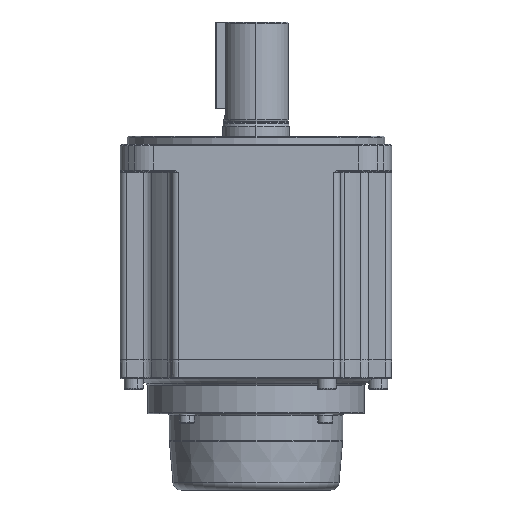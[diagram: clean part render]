
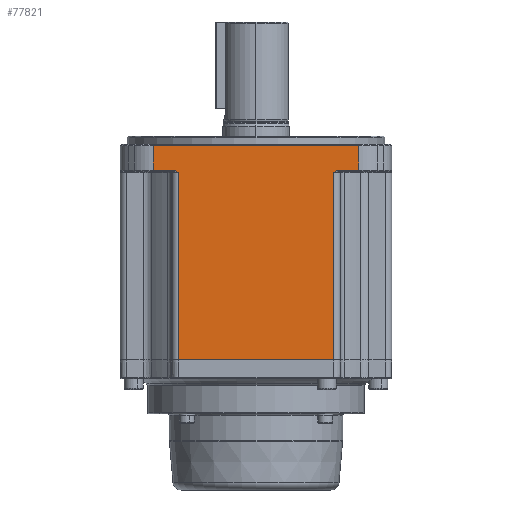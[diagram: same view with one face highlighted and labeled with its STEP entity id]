
A CAD part, front view. The second image highlights one B-rep face of the part: STEP entity #77821.
In plain terms, the highlighted planar face has unit normal (0, -1, 0).
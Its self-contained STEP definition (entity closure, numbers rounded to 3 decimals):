
#1641 = CARTESIAN_POINT ( 'NONE',  ( -37.858, -50., -3.5 ) ) ;
#2304 = EDGE_CURVE ( 'NONE', #22029, #84520, #54029, .T. ) ;
#2759 = ORIENTED_EDGE ( 'NONE', *, *, #10282, .F. ) ;
#3990 = EDGE_CURVE ( 'NONE', #93232, #22029, #69452, .T. ) ;
#4871 = CARTESIAN_POINT ( 'NONE',  ( -37.858, -50., -3.5 ) ) ;
#6274 = CARTESIAN_POINT ( 'NONE',  ( 29.912, -50., -12.743 ) ) ;
#7659 = ORIENTED_EDGE ( 'NONE', *, *, #90831, .T. ) ;
#8032 = B_SPLINE_CURVE_WITH_KNOTS ( 'NONE', 3,
 ( #22732, #13758, #74489, #6274, #66995, #97522 ),
 .UNSPECIFIED., .F., .F.,
 ( 4, 2, 4 ),
 ( 0., 0.001, 0.002 ),
 .UNSPECIFIED. ) ;
#9419 = AXIS2_PLACEMENT_3D ( 'NONE', #36282, #66099, #29776 ) ;
#9671 = DIRECTION ( 'NONE',  ( 0., 0., -1. ) ) ;
#9866 = VECTOR ( 'NONE', #27117, 1000. ) ;
#10282 = EDGE_CURVE ( 'NONE', #18338, #31047, #64464, .T. ) ;
#12677 = LINE ( 'NONE', #35603, #27682 ) ;
#13758 = CARTESIAN_POINT ( 'NONE',  ( 28.839, -50., -13.36 ) ) ;
#13774 = VERTEX_POINT ( 'NONE', #67542 ) ;
#14297 = DIRECTION ( 'NONE',  ( 1., 0., 0. ) ) ;
#14455 = VECTOR ( 'NONE', #14297, 1000. ) ;
#14587 = VECTOR ( 'NONE', #32121, 1000. ) ;
#16151 = ORIENTED_EDGE ( 'NONE', *, *, #3990, .T. ) ;
#18338 = VERTEX_POINT ( 'NONE', #85606 ) ;
#20334 = PLANE ( 'NONE',  #9419 ) ;
#21225 = CARTESIAN_POINT ( 'NONE',  ( -30.736, -50., -12.6 ) ) ;
#21808 = LINE ( 'NONE', #52173, #30866 ) ;
#22029 = VERTEX_POINT ( 'NONE', #57118 ) ;
#22732 = CARTESIAN_POINT ( 'NONE',  ( 28.5, -50., -13.6 ) ) ;
#23832 = EDGE_CURVE ( 'NONE', #18338, #13774, #82586, .T. ) ;
#25291 = VERTEX_POINT ( 'NONE', #29015 ) ;
#25792 = EDGE_CURVE ( 'NONE', #13774, #25291, #21808, .T. ) ;
#26154 = CARTESIAN_POINT ( 'NONE',  ( -28.5, -50., -168.7 ) ) ;
#26209 = DIRECTION ( 'NONE',  ( 0., 0., 1. ) ) ;
#26779 = CARTESIAN_POINT ( 'NONE',  ( -29.178, -50., -13.12 ) ) ;
#27117 = DIRECTION ( 'NONE',  ( 0., 0., 1. ) ) ;
#27682 = VECTOR ( 'NONE', #28097, 1000. ) ;
#28097 = DIRECTION ( 'NONE',  ( 1., 0., 0. ) ) ;
#29015 = CARTESIAN_POINT ( 'NONE',  ( 28.5, -50., -13.6 ) ) ;
#29776 = DIRECTION ( 'NONE',  ( 1., 0., 0. ) ) ;
#30866 = VECTOR ( 'NONE', #26209, 1000. ) ;
#31047 = VERTEX_POINT ( 'NONE', #72704 ) ;
#32073 = CARTESIAN_POINT ( 'NONE',  ( -37.858, -50., -310.121 ) ) ;
#32121 = DIRECTION ( 'NONE',  ( -1., 0., 0. ) ) ;
#34759 = CARTESIAN_POINT ( 'NONE',  ( -30.736, -50., -12.6 ) ) ;
#35188 = ORIENTED_EDGE ( 'NONE', *, *, #81828, .T. ) ;
#35603 = CARTESIAN_POINT ( 'NONE',  ( 42., -50., -12.6 ) ) ;
#36282 = CARTESIAN_POINT ( 'NONE',  ( 42., -50., -310.121 ) ) ;
#42738 = EDGE_CURVE ( 'NONE', #78084, #31047, #78274, .T. ) ;
#46242 = ORIENTED_EDGE ( 'NONE', *, *, #23832, .T. ) ;
#48705 = CARTESIAN_POINT ( 'NONE',  ( -30.315, -50., -12.6 ) ) ;
#48757 = EDGE_CURVE ( 'NONE', #84520, #74632, #86887, .T. ) ;
#49595 = VERTEX_POINT ( 'NONE', #91456 ) ;
#50219 = VECTOR ( 'NONE', #89791, 1000. ) ;
#50532 = VECTOR ( 'NONE', #9671, 1000. ) ;
#51948 = CARTESIAN_POINT ( 'NONE',  ( 37.858, -50., -12.6 ) ) ;
#52173 = CARTESIAN_POINT ( 'NONE',  ( 28.5, -50., -168.7 ) ) ;
#54029 = LINE ( 'NONE', #1641, #14587 ) ;
#55789 = ORIENTED_EDGE ( 'NONE', *, *, #48757, .T. ) ;
#57118 = CARTESIAN_POINT ( 'NONE',  ( 37.858, -50., -3.5 ) ) ;
#57142 = CARTESIAN_POINT ( 'NONE',  ( -28.5, -50., -13.6 ) ) ;
#59067 = EDGE_CURVE ( 'NONE', #49595, #93232, #67276, .T. ) ;
#59822 = CARTESIAN_POINT ( 'NONE',  ( 42., -50., -12.6 ) ) ;
#62246 = EDGE_LOOP ( 'NONE', ( #2759, #46242, #62943, #7659, #78086, #16151, #78516, #55789, #35188, #87497 ) ) ;
#62943 = ORIENTED_EDGE ( 'NONE', *, *, #25792, .T. ) ;
#64464 = LINE ( 'NONE', #26154, #9866 ) ;
#64609 = CARTESIAN_POINT ( 'NONE',  ( -29.912, -50., -12.743 ) ) ;
#65087 = CARTESIAN_POINT ( 'NONE',  ( -28.839, -50., -13.36 ) ) ;
#66099 = DIRECTION ( 'NONE',  ( 0., -1., 0. ) ) ;
#66995 = CARTESIAN_POINT ( 'NONE',  ( 30.315, -50., -12.6 ) ) ;
#67276 = LINE ( 'NONE', #59822, #50219 ) ;
#67508 = VECTOR ( 'NONE', #92952, 1000. ) ;
#67542 = CARTESIAN_POINT ( 'NONE',  ( 28.5, -50., -82.5 ) ) ;
#69452 = LINE ( 'NONE', #78912, #67508 ) ;
#69940 = CARTESIAN_POINT ( 'NONE',  ( -37.858, -50., -12.6 ) ) ;
#72704 = CARTESIAN_POINT ( 'NONE',  ( -28.5, -50., -13.6 ) ) ;
#74489 = CARTESIAN_POINT ( 'NONE',  ( 29.178, -50., -13.12 ) ) ;
#74632 = VERTEX_POINT ( 'NONE', #69940 ) ;
#77821 = ADVANCED_FACE ( 'NONE', ( #96613 ), #20334, .T. ) ;
#78084 = VERTEX_POINT ( 'NONE', #21225 ) ;
#78086 = ORIENTED_EDGE ( 'NONE', *, *, #59067, .T. ) ;
#78274 = B_SPLINE_CURVE_WITH_KNOTS ( 'NONE', 3,
 ( #34759, #48705, #64609, #26779, #65087, #57142 ),
 .UNSPECIFIED., .F., .F.,
 ( 4, 2, 4 ),
 ( 0., 0.001, 0.002 ),
 .UNSPECIFIED. ) ;
#78516 = ORIENTED_EDGE ( 'NONE', *, *, #2304, .T. ) ;
#78912 = CARTESIAN_POINT ( 'NONE',  ( 37.858, -50., -310.121 ) ) ;
#81828 = EDGE_CURVE ( 'NONE', #74632, #78084, #12677, .T. ) ;
#82586 = LINE ( 'NONE', #97065, #14455 ) ;
#84520 = VERTEX_POINT ( 'NONE', #4871 ) ;
#85606 = CARTESIAN_POINT ( 'NONE',  ( -28.5, -50., -82.5 ) ) ;
#86887 = LINE ( 'NONE', #32073, #50532 ) ;
#87497 = ORIENTED_EDGE ( 'NONE', *, *, #42738, .T. ) ;
#89791 = DIRECTION ( 'NONE',  ( 1., 0., 0. ) ) ;
#90831 = EDGE_CURVE ( 'NONE', #25291, #49595, #8032, .T. ) ;
#91456 = CARTESIAN_POINT ( 'NONE',  ( 30.736, -50., -12.6 ) ) ;
#92952 = DIRECTION ( 'NONE',  ( 0., 0., 1. ) ) ;
#93232 = VERTEX_POINT ( 'NONE', #51948 ) ;
#96613 = FACE_OUTER_BOUND ( 'NONE', #62246, .T. ) ;
#97065 = CARTESIAN_POINT ( 'NONE',  ( 42., -50., -82.5 ) ) ;
#97522 = CARTESIAN_POINT ( 'NONE',  ( 30.736, -50., -12.6 ) ) ;
